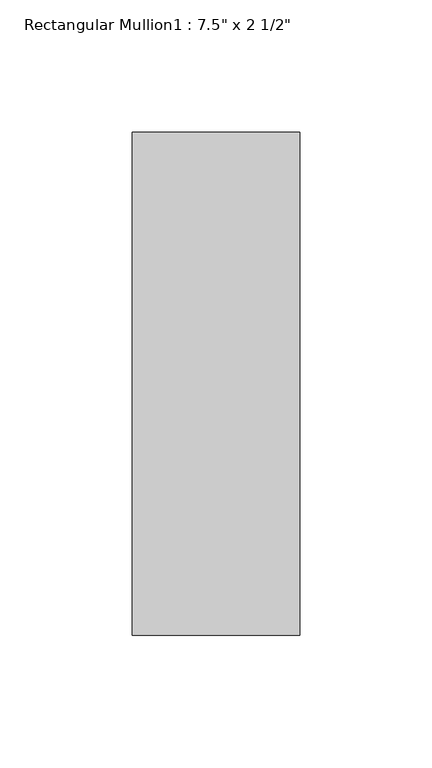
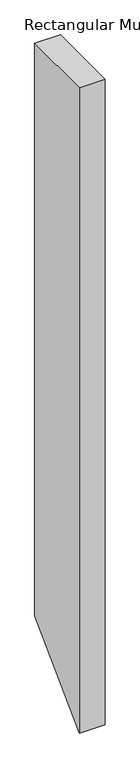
"""IFC4 building model written with IfcOpenShell, lengths in millimetres: member geometry."""

from ifc_helpers import new_model, si_unit, frame, origin, place, context, project, spatial, polyline, outline, extrude, source, transform, mapped, element, save


def member_8ea143ca(model_context):
    return source(origin(), model_context, "Body", "SweptSolid", [
        extrude(outline(polyline([(-25.4, 0.0), (165.1, 0.0), (165.1, -1492.25), (-25.4, -1682.75), (-25.4, 0.0)])), frame((-63.5, 0.0, 0.0), z_axis=(1.0, 0.0, 0.0), x_axis=(0.0, 1.0, 0.0)), (0.0, 0.0, 1.0), 63.5),
    ])


if __name__ == "__main__":
    model = new_model("IFC4")
    model_context = context("Model", 3, world=origin())
    ifc_project = project(units=[si_unit("LENGTHUNIT", "METRE", prefix="MILLI")], contexts=[model_context])
    site = spatial("IfcSite", under=ifc_project)
    building = spatial("IfcBuilding", under=site)
    placement = place(None, origin())
    member_shape = member_8ea143ca(model_context)
    element("IfcMember", 1, ObjectType="Rectangular Mullion1 : 7.5\" x 2 1/2\"", at=placement, inside=building, context=model_context, shape_type="MappedRepresentation", body=[
        mapped(member_shape, transform((0.0, 0.0, 0.0), x_axis=(1.0, 0.0, 0.0), y_axis=(0.0, 1.0, 0.0), z_axis=(0.0, 0.0, 1.0))),
    ])
    save(model, "model.ifc")
